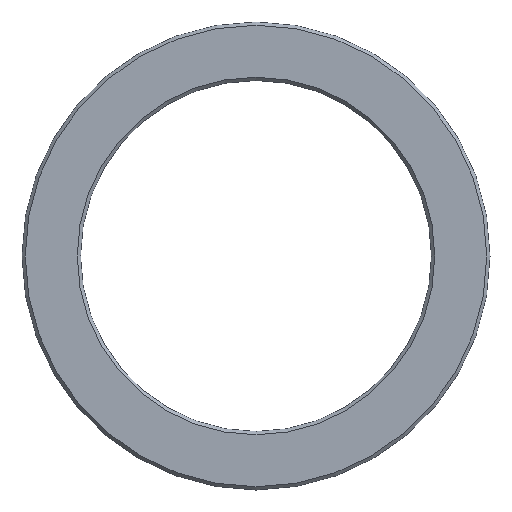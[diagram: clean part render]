
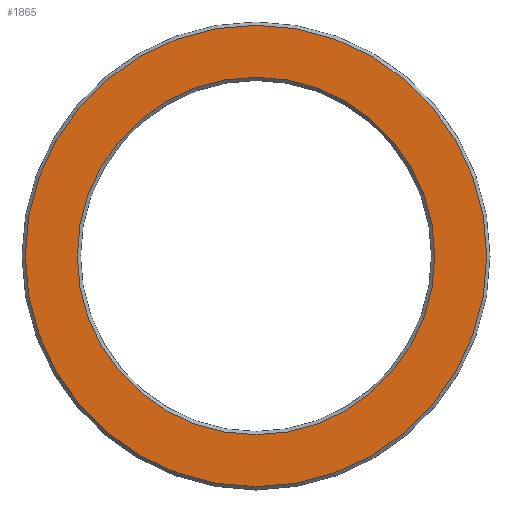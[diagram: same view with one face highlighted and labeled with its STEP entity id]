
A CAD part, left-side view. The second image highlights one B-rep face of the part: STEP entity #1865.
In plain terms, the highlighted planar face has unit normal (-1, 0, 0).
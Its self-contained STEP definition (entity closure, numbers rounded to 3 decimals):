
#16=FACE_BOUND('',#230,.T.);
#19=PLANE('',#2092);
#123=FACE_OUTER_BOUND('',#229,.T.);
#229=EDGE_LOOP('',(#1360));
#230=EDGE_LOOP('',(#1361));
#637=CIRCLE('',#2091,355.);
#638=CIRCLE('',#2093,275.);
#840=VERTEX_POINT('',#3223);
#841=VERTEX_POINT('',#3227);
#1046=EDGE_CURVE('',#840,#840,#637,.T.);
#1047=EDGE_CURVE('',#841,#841,#638,.T.);
#1360=ORIENTED_EDGE('',*,*,#1046,.F.);
#1361=ORIENTED_EDGE('',*,*,#1047,.F.);
#1865=ADVANCED_FACE('',(#123,#16),#19,.T.);
#2091=AXIS2_PLACEMENT_3D('',#3225,#2509,#2510);
#2092=AXIS2_PLACEMENT_3D('',#3226,#2511,#2512);
#2093=AXIS2_PLACEMENT_3D('',#3228,#2513,#2514);
#2509=DIRECTION('center_axis',(1.,0.,0.));
#2510=DIRECTION('ref_axis',(0.,-1.,0.));
#2511=DIRECTION('center_axis',(-1.,0.,0.));
#2512=DIRECTION('ref_axis',(0.,0.,1.));
#2513=DIRECTION('center_axis',(-1.,0.,0.));
#2514=DIRECTION('ref_axis',(0.,-1.,0.));
#3223=CARTESIAN_POINT('',(0.,355.,0.));
#3225=CARTESIAN_POINT('Origin',(0.,0.,0.));
#3226=CARTESIAN_POINT('Origin',(0.,360.,0.));
#3227=CARTESIAN_POINT('',(0.,275.,0.));
#3228=CARTESIAN_POINT('Origin',(0.,0.,0.));
